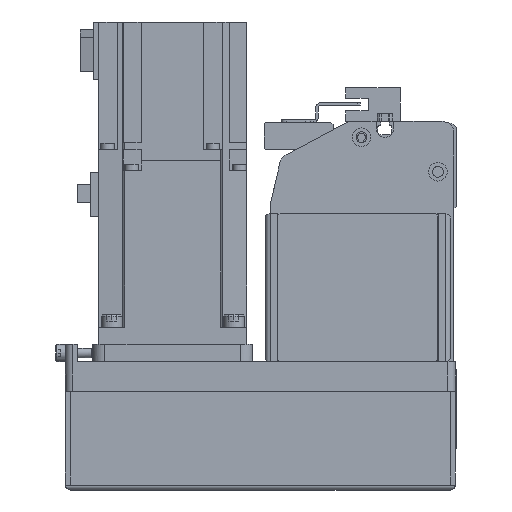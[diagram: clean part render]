
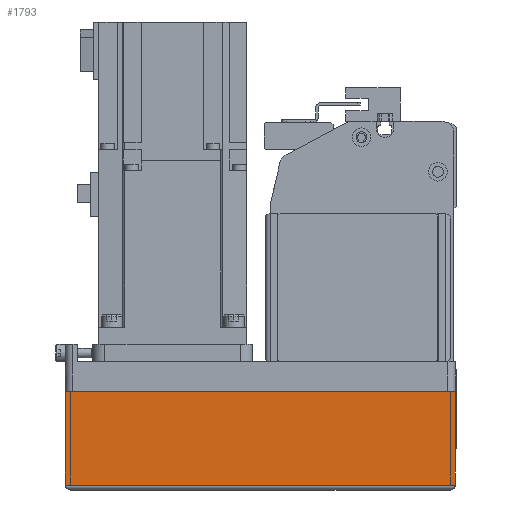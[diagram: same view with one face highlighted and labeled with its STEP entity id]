
A CAD part, left-side view. The second image highlights one B-rep face of the part: STEP entity #1793.
In plain terms, the highlighted planar face has unit normal (-1, 0, 0) as drawn and (0, -1, 0) by its records, which use the part's own axes.
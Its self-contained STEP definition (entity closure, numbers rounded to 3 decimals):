
#1793 = ADVANCED_FACE( '', ( #4207 ), #4208, .T. );
#4207 = FACE_OUTER_BOUND( '', #7390, .T. );
#4208 = PLANE( '', #7391 );
#7390 = EDGE_LOOP( '', ( #12377, #12378, #12379, #12380 ) );
#7391 = AXIS2_PLACEMENT_3D( '', #12381, #12382, #12383 );
#12377 = ORIENTED_EDGE( '', *, *, #19707, .F. );
#12378 = ORIENTED_EDGE( '', *, *, #18276, .F. );
#12379 = ORIENTED_EDGE( '', *, *, #19708, .T. );
#12380 = ORIENTED_EDGE( '', *, *, #19709, .T. );
#12381 = CARTESIAN_POINT( '', ( -158., -39., -12.1 ) );
#12382 = DIRECTION( '', ( 0., -1., 0. ) );
#12383 = DIRECTION( '', ( 0., 0., -1. ) );
#18276 = EDGE_CURVE( '', #21770, #21771, #21772, .T. );
#19707 = EDGE_CURVE( '', #21771, #23877, #24140, .T. );
#19708 = EDGE_CURVE( '', #21770, #24141, #24142, .T. );
#19709 = EDGE_CURVE( '', #24141, #23877, #24143, .T. );
#21770 = VERTEX_POINT( '', #26853 );
#21771 = VERTEX_POINT( '', #26854 );
#21772 = LINE( '', #26855, #26856 );
#23877 = VERTEX_POINT( '', #30015 );
#24140 = LINE( '', #30398, #30399 );
#24141 = VERTEX_POINT( '', #30400 );
#24142 = LINE( '', #30401, #30402 );
#24143 = LINE( '', #30403, #30404 );
#26853 = CARTESIAN_POINT( '', ( -158., -39., -12.1 ) );
#26854 = CARTESIAN_POINT( '', ( 0., -39., -12.1 ) );
#26855 = CARTESIAN_POINT( '', ( -158., -39., -12.1 ) );
#26856 = VECTOR( '', #33920, 1000. );
#30015 = CARTESIAN_POINT( '', ( 0., -39., -50. ) );
#30398 = CARTESIAN_POINT( '', ( 0., -39., -12.1 ) );
#30399 = VECTOR( '', #35708, 1000. );
#30400 = CARTESIAN_POINT( '', ( -158., -39., -50. ) );
#30401 = CARTESIAN_POINT( '', ( -158., -39., -12.1 ) );
#30402 = VECTOR( '', #35709, 1000. );
#30403 = CARTESIAN_POINT( '', ( -158., -39., -50. ) );
#30404 = VECTOR( '', #35710, 1000. );
#33920 = DIRECTION( '', ( 1., 0., 0. ) );
#35708 = DIRECTION( '', ( 0., 0., -1. ) );
#35709 = DIRECTION( '', ( 0., 0., -1. ) );
#35710 = DIRECTION( '', ( 1., 0., 0. ) );
